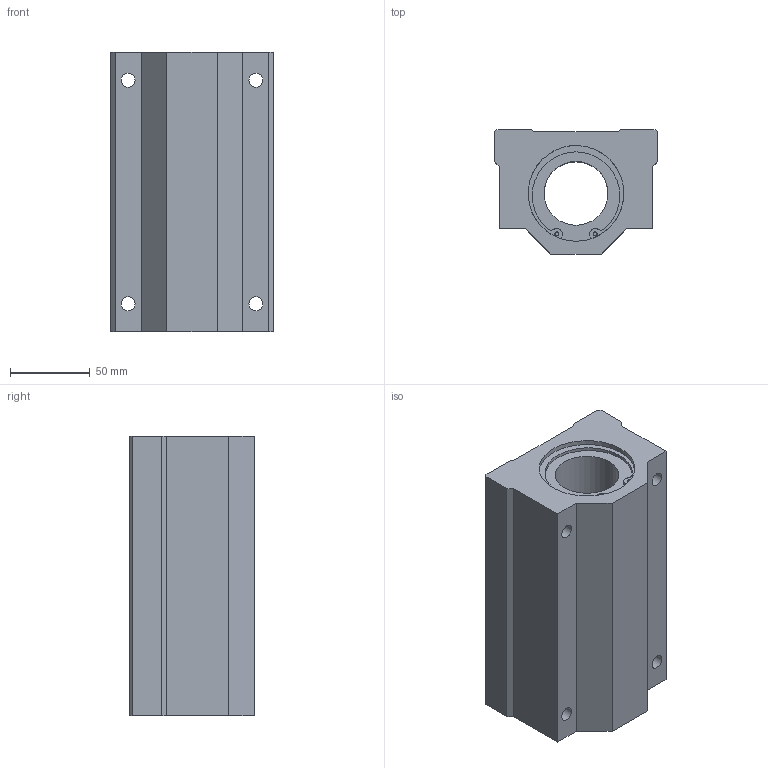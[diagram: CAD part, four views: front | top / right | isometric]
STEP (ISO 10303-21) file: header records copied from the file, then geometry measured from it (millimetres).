
FILE_DESCRIPTION(('STEP AP203'),'1');
FILE_NAME('//192.168.1.1/share/s-4 技術開発/s-4-4_CAD/s-4-4-3_見直し済み/008 修正済み/LC-L/LC-L_TOP/LC-40VLUU.step','2022-05-19T01:15:17',(' '),(' '),'Spatial InterOp 3D',' ',' ');
FILE_SCHEMA(('CONFIG_CONTROL_DESIGN'));
Length unit declared in the file: millimetre
Products named in the file (1): 1
Bounding box: 102 x 78 x 175 mm (x, y, z)
Volume: 933352.5 mm3; surface area: 98994 mm2
Topology: 1 solids, 1 shells, 61 faces, 159 edges, 106 vertices
Faces by surface type: plane 32, cylinder 29
Full cylindrical faces by diameter (mm): 2.5 x4, 8.7 x8, 40 x1, 60 x2
Entity records: 1824 total; most frequent: DIRECTION 318, CARTESIAN_POINT 300, ORIENTED_EDGE 276, EDGE_CURVE 138, AXIS2_PLACEMENT_3D 118, VERTEX_POINT 100, EDGE_LOOP 92, LINE 82
